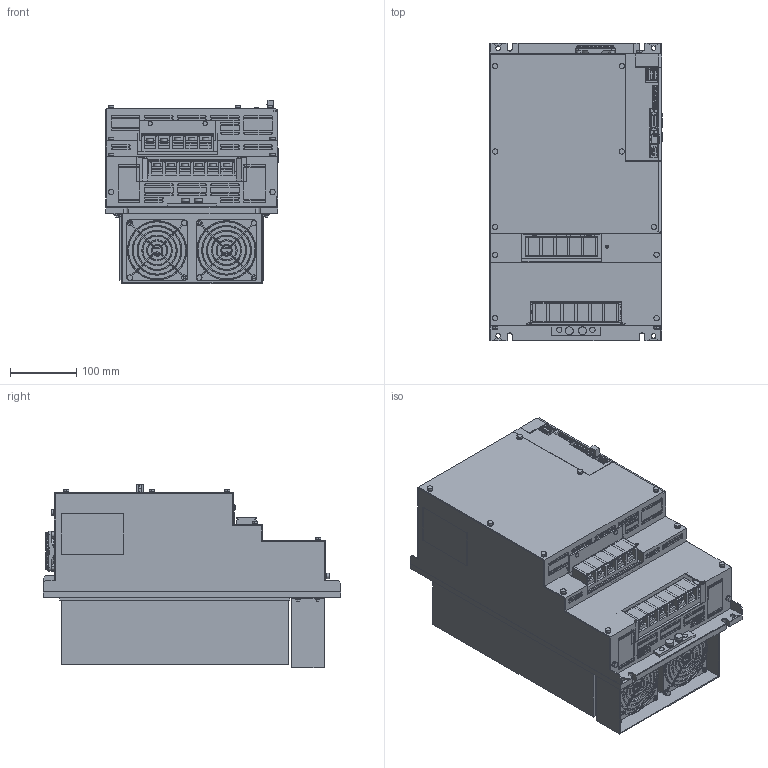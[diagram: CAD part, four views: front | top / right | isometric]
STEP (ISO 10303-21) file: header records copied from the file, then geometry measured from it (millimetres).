
FILE_DESCRIPTION (( 'STEP AP203' ), '1' );
FILE_NAME ('sgdv_780a1_a001000.STEP', '2009-05-13T13:26:43', ( 'T' ), ( 'T' ), 'SwSTEP 2.0', 'SolidWorks 2006052', '' );
FILE_SCHEMA (( 'CONFIG_CONTROL_DESIGN' ));
Products named in the file (7): sgdv_780a1_a001000_base; sgdv_780a1_a001000; sgdv_780a1_a001000_cover; sgdv_780a1_a001000_cover2; sgdv_780a1_a001000_connector; sgdv_780a1_a001000_cover3; sgdv_780a1_a001000_cover4
Assembly tree (7 placements, depth 2):
  sgdv_780a1_a001000
    sgdv_780a1_a001000_cover2  x2
    sgdv_780a1_a001000_cover4
    sgdv_780a1_a001000_cover3
    sgdv_780a1_a001000_connector
    sgdv_780a1_a001000_base
    sgdv_780a1_a001000_cover
Bounding box: 260.6 x 450 x 278 mm (x, y, z)
Volume: 17641481.4 mm3; surface area: 1666291.7 mm2
Topology: 7 solids, 7 shells, 2776 faces, 7751 edges, 5123 vertices
Faces by surface type: plane 2206, cylinder 549, cone 20, sphere 1
Entity records: 89002 total; most frequent: CARTESIAN_POINT 15693, ORIENTED_EDGE 15394, DIRECTION 14589, EDGE_CURVE 7697, VECTOR 6271, LINE 6271, VERTEX_POINT 5087, AXIS2_PLACEMENT_3D 4159
